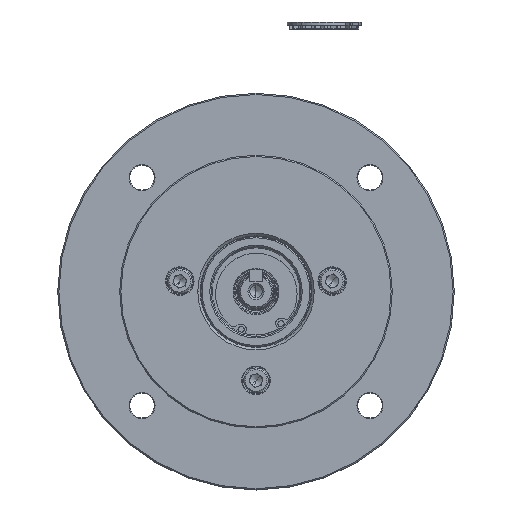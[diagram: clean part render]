
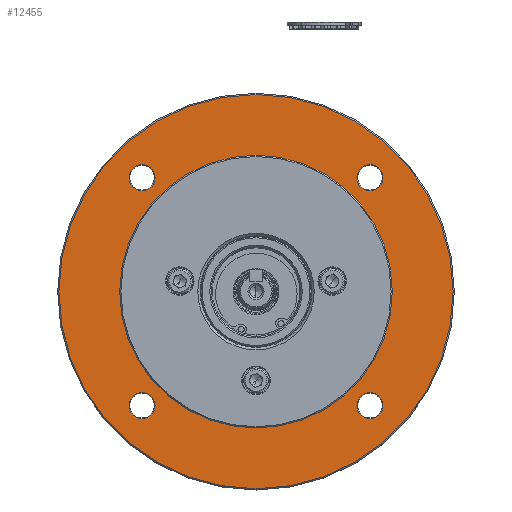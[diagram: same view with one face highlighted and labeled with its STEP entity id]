
A CAD part, top view. The second image highlights one B-rep face of the part: STEP entity #12455.
In plain terms, the highlighted planar face has unit normal (0, 0, 1).
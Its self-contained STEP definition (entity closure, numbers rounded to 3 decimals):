
#57 = DIRECTION ( 'NONE',  ( -1., 0., 0. ) ) ;
#823 = CARTESIAN_POINT ( 'NONE',  ( 0., 4., 39.325 ) ) ;
#1352 = AXIS2_PLACEMENT_3D ( 'NONE', #29859, #42370, #17596 ) ;
#1545 = FACE_BOUND ( 'NONE', #3545, .T. ) ;
#1563 = EDGE_CURVE ( 'NONE', #11926, #1961, #12860, .T. ) ;
#1961 = VERTEX_POINT ( 'NONE', #4065 ) ;
#2198 = FACE_BOUND ( 'NONE', #3474, .T. ) ;
#3223 = ORIENTED_EDGE ( 'NONE', *, *, #1563, .F. ) ;
#3233 = ORIENTED_EDGE ( 'NONE', *, *, #36438, .T. ) ;
#3474 = EDGE_LOOP ( 'NONE', ( #25525, #15057 ) ) ;
#3545 = EDGE_LOOP ( 'NONE', ( #15456, #17160 ) ) ;
#4065 = CARTESIAN_POINT ( 'NONE',  ( -79.5, 4., 39.325 ) ) ;
#4107 = CIRCLE ( 'NONE', #7928, 5.25 ) ;
#4117 = AXIS2_PLACEMENT_3D ( 'NONE', #35277, #14719, #43608 ) ;
#4583 = DIRECTION ( 'NONE',  ( 0., 0., -1. ) ) ;
#4719 = CARTESIAN_POINT ( 'NONE',  ( -51.212, -41.962, 39.325 ) ) ;
#4746 = VERTEX_POINT ( 'NONE', #33131 ) ;
#4788 = FACE_OUTER_BOUND ( 'NONE', #29618, .T. ) ;
#5174 = DIRECTION ( 'NONE',  ( 0., 0., -1. ) ) ;
#6735 = EDGE_CURVE ( 'NONE', #1961, #11926, #15772, .T. ) ;
#7162 = EDGE_CURVE ( 'NONE', #23370, #19875, #50042, .T. ) ;
#7662 = VERTEX_POINT ( 'NONE', #18131 ) ;
#7928 = AXIS2_PLACEMENT_3D ( 'NONE', #40599, #36593, #28802 ) ;
#8247 = CARTESIAN_POINT ( 'NONE',  ( 0., 4., 39.325 ) ) ;
#9118 = DIRECTION ( 'NONE',  ( -1., 0., 0. ) ) ;
#9309 = CARTESIAN_POINT ( 'NONE',  ( 0., 4., 39.325 ) ) ;
#9356 = DIRECTION ( 'NONE',  ( 0., 0., -1. ) ) ;
#11050 = VERTEX_POINT ( 'NONE', #43117 ) ;
#11926 = VERTEX_POINT ( 'NONE', #30737 ) ;
#12455 = ADVANCED_FACE ( 'NONE', ( #12544, #47421, #2198, #1545, #46100, #4788 ), #42840, .T. ) ;
#12544 = FACE_BOUND ( 'NONE', #51640, .T. ) ;
#12860 = CIRCLE ( 'NONE', #4117, 79.5 ) ;
#13094 = DIRECTION ( 'NONE',  ( -1., 0., 0. ) ) ;
#13683 = DIRECTION ( 'NONE',  ( 1., 0., 0. ) ) ;
#14719 = DIRECTION ( 'NONE',  ( 0., 0., -1. ) ) ;
#14803 = DIRECTION ( 'NONE',  ( 0., 0., -1. ) ) ;
#15057 = ORIENTED_EDGE ( 'NONE', *, *, #34049, .T. ) ;
#15456 = ORIENTED_EDGE ( 'NONE', *, *, #7162, .T. ) ;
#15490 = CARTESIAN_POINT ( 'NONE',  ( 40.712, -41.962, 39.325 ) ) ;
#15707 = VERTEX_POINT ( 'NONE', #47787 ) ;
#15772 = CIRCLE ( 'NONE', #21626, 79.5 ) ;
#16376 = VERTEX_POINT ( 'NONE', #35948 ) ;
#17160 = ORIENTED_EDGE ( 'NONE', *, *, #38234, .T. ) ;
#17477 = DIRECTION ( 'NONE',  ( 0., 0., -1. ) ) ;
#17520 = CIRCLE ( 'NONE', #19947, 5.25 ) ;
#17596 = DIRECTION ( 'NONE',  ( 1., 0., 0. ) ) ;
#17728 = CARTESIAN_POINT ( 'NONE',  ( 45.962, 49.962, 39.325 ) ) ;
#17979 = ORIENTED_EDGE ( 'NONE', *, *, #35433, .T. ) ;
#18131 = CARTESIAN_POINT ( 'NONE',  ( -55., 4., 39.325 ) ) ;
#18476 = AXIS2_PLACEMENT_3D ( 'NONE', #17728, #46691, #50875 ) ;
#18939 = EDGE_CURVE ( 'NONE', #15707, #36743, #52420, .T. ) ;
#18975 = CARTESIAN_POINT ( 'NONE',  ( -40.712, 49.962, 39.325 ) ) ;
#19680 = CIRCLE ( 'NONE', #1352, 5.25 ) ;
#19875 = VERTEX_POINT ( 'NONE', #49000 ) ;
#19947 = AXIS2_PLACEMENT_3D ( 'NONE', #52847, #4583, #41386 ) ;
#20602 = AXIS2_PLACEMENT_3D ( 'NONE', #48392, #14803, #43690 ) ;
#21626 = AXIS2_PLACEMENT_3D ( 'NONE', #8247, #29218, #57 ) ;
#23188 = AXIS2_PLACEMENT_3D ( 'NONE', #9309, #17477, #9118 ) ;
#23370 = VERTEX_POINT ( 'NONE', #18975 ) ;
#24425 = ORIENTED_EDGE ( 'NONE', *, *, #24798, .T. ) ;
#24798 = EDGE_CURVE ( 'NONE', #7662, #28608, #46604, .T. ) ;
#25525 = ORIENTED_EDGE ( 'NONE', *, *, #37320, .T. ) ;
#27456 = AXIS2_PLACEMENT_3D ( 'NONE', #30220, #50924, #35127 ) ;
#28608 = VERTEX_POINT ( 'NONE', #42859 ) ;
#28802 = DIRECTION ( 'NONE',  ( 1., 0., 0. ) ) ;
#29218 = DIRECTION ( 'NONE',  ( 0., 0., -1. ) ) ;
#29618 = EDGE_LOOP ( 'NONE', ( #48589, #3223 ) ) ;
#29859 = CARTESIAN_POINT ( 'NONE',  ( 45.962, -41.962, 39.325 ) ) ;
#29972 = DIRECTION ( 'NONE',  ( 1., 0., 0. ) ) ;
#30220 = CARTESIAN_POINT ( 'NONE',  ( -45.962, -41.962, 39.325 ) ) ;
#30381 = AXIS2_PLACEMENT_3D ( 'NONE', #823, #5174, #13094 ) ;
#30737 = CARTESIAN_POINT ( 'NONE',  ( 79.5, 4., 39.325 ) ) ;
#32476 = ORIENTED_EDGE ( 'NONE', *, *, #51327, .T. ) ;
#33131 = CARTESIAN_POINT ( 'NONE',  ( 51.212, -41.962, 39.325 ) ) ;
#34049 = EDGE_CURVE ( 'NONE', #16376, #11050, #17520, .T. ) ;
#34493 = CARTESIAN_POINT ( 'NONE',  ( 0., 59., 39.325 ) ) ;
#34670 = DIRECTION ( 'NONE',  ( 1., 0., 0. ) ) ;
#34846 = EDGE_CURVE ( 'NONE', #52681, #4746, #19680, .T. ) ;
#34995 = AXIS2_PLACEMENT_3D ( 'NONE', #34493, #47023, #34670 ) ;
#35127 = DIRECTION ( 'NONE',  ( 1., 0., 0. ) ) ;
#35277 = CARTESIAN_POINT ( 'NONE',  ( 0., 4., 39.325 ) ) ;
#35433 = EDGE_CURVE ( 'NONE', #28608, #7662, #43574, .T. ) ;
#35948 = CARTESIAN_POINT ( 'NONE',  ( 40.712, 49.962, 39.325 ) ) ;
#36438 = EDGE_CURVE ( 'NONE', #36743, #15707, #48477, .T. ) ;
#36593 = DIRECTION ( 'NONE',  ( 0., 0., -1. ) ) ;
#36743 = VERTEX_POINT ( 'NONE', #4719 ) ;
#37320 = EDGE_CURVE ( 'NONE', #11050, #16376, #48268, .T. ) ;
#38234 = EDGE_CURVE ( 'NONE', #19875, #23370, #4107, .T. ) ;
#38778 = AXIS2_PLACEMENT_3D ( 'NONE', #46924, #42209, #13683 ) ;
#40599 = CARTESIAN_POINT ( 'NONE',  ( -45.962, 49.962, 39.325 ) ) ;
#41386 = DIRECTION ( 'NONE',  ( 1., 0., 0. ) ) ;
#42209 = DIRECTION ( 'NONE',  ( 0., 0., -1. ) ) ;
#42370 = DIRECTION ( 'NONE',  ( 0., 0., -1. ) ) ;
#42840 = PLANE ( 'NONE',  #34995 ) ;
#42859 = CARTESIAN_POINT ( 'NONE',  ( 55., 4., 39.325 ) ) ;
#43117 = CARTESIAN_POINT ( 'NONE',  ( 51.212, 49.962, 39.325 ) ) ;
#43574 = CIRCLE ( 'NONE', #30381, 55. ) ;
#43608 = DIRECTION ( 'NONE',  ( -1., 0., 0. ) ) ;
#43616 = ORIENTED_EDGE ( 'NONE', *, *, #18939, .T. ) ;
#43690 = DIRECTION ( 'NONE',  ( 1., 0., 0. ) ) ;
#44209 = EDGE_LOOP ( 'NONE', ( #43616, #3233 ) ) ;
#45330 = ORIENTED_EDGE ( 'NONE', *, *, #34846, .T. ) ;
#46100 = FACE_BOUND ( 'NONE', #48907, .T. ) ;
#46604 = CIRCLE ( 'NONE', #23188, 55. ) ;
#46691 = DIRECTION ( 'NONE',  ( 0., 0., -1. ) ) ;
#46924 = CARTESIAN_POINT ( 'NONE',  ( -45.962, -41.962, 39.325 ) ) ;
#47023 = DIRECTION ( 'NONE',  ( 0., 0., 1. ) ) ;
#47421 = FACE_BOUND ( 'NONE', #44209, .T. ) ;
#47787 = CARTESIAN_POINT ( 'NONE',  ( -40.712, -41.962, 39.325 ) ) ;
#48268 = CIRCLE ( 'NONE', #18476, 5.25 ) ;
#48392 = CARTESIAN_POINT ( 'NONE',  ( -45.962, 49.962, 39.325 ) ) ;
#48477 = CIRCLE ( 'NONE', #38778, 5.25 ) ;
#48589 = ORIENTED_EDGE ( 'NONE', *, *, #6735, .F. ) ;
#48907 = EDGE_LOOP ( 'NONE', ( #24425, #17979 ) ) ;
#49000 = CARTESIAN_POINT ( 'NONE',  ( -51.212, 49.962, 39.325 ) ) ;
#49476 = CIRCLE ( 'NONE', #52490, 5.25 ) ;
#49945 = CARTESIAN_POINT ( 'NONE',  ( 45.962, -41.962, 39.325 ) ) ;
#50042 = CIRCLE ( 'NONE', #20602, 5.25 ) ;
#50875 = DIRECTION ( 'NONE',  ( 1., 0., 0. ) ) ;
#50924 = DIRECTION ( 'NONE',  ( 0., 0., -1. ) ) ;
#51327 = EDGE_CURVE ( 'NONE', #4746, #52681, #49476, .T. ) ;
#51640 = EDGE_LOOP ( 'NONE', ( #32476, #45330 ) ) ;
#52420 = CIRCLE ( 'NONE', #27456, 5.25 ) ;
#52490 = AXIS2_PLACEMENT_3D ( 'NONE', #49945, #9356, #29972 ) ;
#52681 = VERTEX_POINT ( 'NONE', #15490 ) ;
#52847 = CARTESIAN_POINT ( 'NONE',  ( 45.962, 49.962, 39.325 ) ) ;
